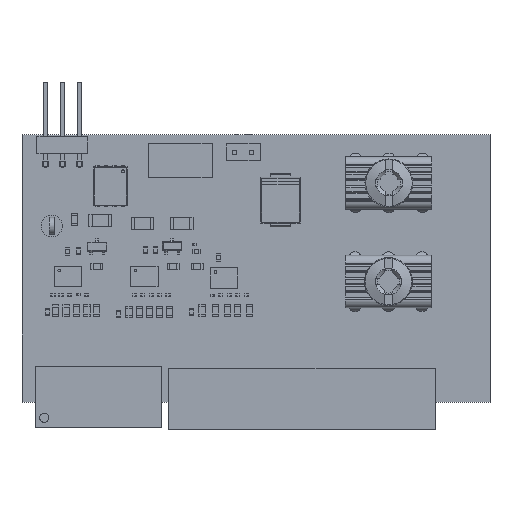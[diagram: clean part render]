
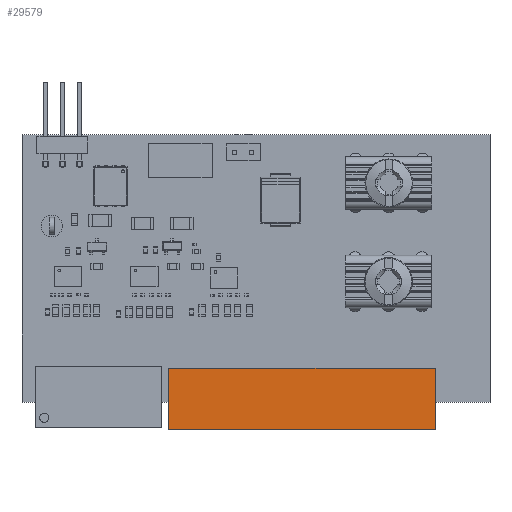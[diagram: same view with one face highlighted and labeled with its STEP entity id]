
A CAD part, top view. The second image highlights one B-rep face of the part: STEP entity #29579.
In plain terms, the highlighted planar face has unit normal (0, 0, 1) as drawn and (0, 1, 0) by its records, which use the part's own axes.
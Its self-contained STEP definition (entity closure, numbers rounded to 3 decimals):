
#24768 = PLANE('',#24769);
#24769 = AXIS2_PLACEMENT_3D('',#24770,#24771,#24772);
#24770 = CARTESIAN_POINT('',(0.,0.,0.));
#24771 = DIRECTION('',(0.,0.,1.));
#24772 = DIRECTION('',(1.,0.,0.));
#24793 = VERTEX_POINT('',#24794);
#24794 = CARTESIAN_POINT('',(19.952,6.858,0.));
#24808 = PLANE('',#24809);
#24809 = AXIS2_PLACEMENT_3D('',#24810,#24811,#24812);
#24810 = CARTESIAN_POINT('',(19.952,0.,0.));
#24811 = DIRECTION('',(1.,0.,0.));
#24812 = DIRECTION('',(0.,0.,1.));
#24820 = EDGE_CURVE('',#24793,#24821,#24823,.T.);
#24821 = VERTEX_POINT('',#24822);
#24822 = CARTESIAN_POINT('',(-19.952,6.858,0.));
#24823 = SURFACE_CURVE('',#24824,(#24828,#24835),.PCURVE_S1.);
#24824 = LINE('',#24825,#24826);
#24825 = CARTESIAN_POINT('',(19.952,6.858,0.));
#24826 = VECTOR('',#24827,1.);
#24827 = DIRECTION('',(-1.,0.,0.));
#24828 = PCURVE('',#24768,#24829);
#24829 = DEFINITIONAL_REPRESENTATION('',(#24830),#24834);
#24830 = LINE('',#24831,#24832);
#24831 = CARTESIAN_POINT('',(19.952,6.858));
#24832 = VECTOR('',#24833,1.);
#24833 = DIRECTION('',(-1.,0.));
#24834 = ( GEOMETRIC_REPRESENTATION_CONTEXT(2) 
PARAMETRIC_REPRESENTATION_CONTEXT() REPRESENTATION_CONTEXT('2D SPACE',''
  ) );
#24835 = PCURVE('',#24836,#24841);
#24836 = PLANE('',#24837);
#24837 = AXIS2_PLACEMENT_3D('',#24838,#24839,#24840);
#24838 = CARTESIAN_POINT('',(19.952,6.858,0.));
#24839 = DIRECTION('',(0.,1.,0.));
#24840 = DIRECTION('',(0.,0.,1.));
#24841 = DEFINITIONAL_REPRESENTATION('',(#24842),#24846);
#24842 = LINE('',#24843,#24844);
#24843 = CARTESIAN_POINT('',(0.,0.));
#24844 = VECTOR('',#24845,1.);
#24845 = DIRECTION('',(0.,-1.));
#24846 = ( GEOMETRIC_REPRESENTATION_CONTEXT(2) 
PARAMETRIC_REPRESENTATION_CONTEXT() REPRESENTATION_CONTEXT('2D SPACE',''
  ) );
#24862 = PLANE('',#24863);
#24863 = AXIS2_PLACEMENT_3D('',#24864,#24865,#24866);
#24864 = CARTESIAN_POINT('',(-19.952,6.858,0.));
#24865 = DIRECTION('',(-1.,0.,0.));
#24866 = DIRECTION('',(0.,0.,-1.));
#29409 = EDGE_CURVE('',#24821,#29410,#29412,.T.);
#29410 = VERTEX_POINT('',#29411);
#29411 = CARTESIAN_POINT('',(-19.952,6.858,-9.144));
#29412 = SURFACE_CURVE('',#29413,(#29417,#29424),.PCURVE_S1.);
#29413 = LINE('',#29414,#29415);
#29414 = CARTESIAN_POINT('',(-19.952,6.858,0.));
#29415 = VECTOR('',#29416,1.);
#29416 = DIRECTION('',(0.,0.,-1.));
#29417 = PCURVE('',#24862,#29418);
#29418 = DEFINITIONAL_REPRESENTATION('',(#29419),#29423);
#29419 = LINE('',#29420,#29421);
#29420 = CARTESIAN_POINT('',(0.,0.));
#29421 = VECTOR('',#29422,1.);
#29422 = DIRECTION('',(1.,0.));
#29423 = ( GEOMETRIC_REPRESENTATION_CONTEXT(2) 
PARAMETRIC_REPRESENTATION_CONTEXT() REPRESENTATION_CONTEXT('2D SPACE',''
  ) );
#29424 = PCURVE('',#24836,#29425);
#29425 = DEFINITIONAL_REPRESENTATION('',(#29426),#29430);
#29426 = LINE('',#29427,#29428);
#29427 = CARTESIAN_POINT('',(0.,-39.903));
#29428 = VECTOR('',#29429,1.);
#29429 = DIRECTION('',(-1.,0.));
#29430 = ( GEOMETRIC_REPRESENTATION_CONTEXT(2) 
PARAMETRIC_REPRESENTATION_CONTEXT() REPRESENTATION_CONTEXT('2D SPACE',''
  ) );
#29448 = PLANE('',#29449);
#29449 = AXIS2_PLACEMENT_3D('',#29450,#29451,#29452);
#29450 = CARTESIAN_POINT('',(0.,0.,-9.144));
#29451 = DIRECTION('',(0.,0.,1.));
#29452 = DIRECTION('',(1.,0.,0.));
#29536 = VERTEX_POINT('',#29537);
#29537 = CARTESIAN_POINT('',(19.952,6.858,-9.144));
#29558 = EDGE_CURVE('',#24793,#29536,#29559,.T.);
#29559 = SURFACE_CURVE('',#29560,(#29564,#29571),.PCURVE_S1.);
#29560 = LINE('',#29561,#29562);
#29561 = CARTESIAN_POINT('',(19.952,6.858,0.));
#29562 = VECTOR('',#29563,1.);
#29563 = DIRECTION('',(0.,0.,-1.));
#29564 = PCURVE('',#24808,#29565);
#29565 = DEFINITIONAL_REPRESENTATION('',(#29566),#29570);
#29566 = LINE('',#29567,#29568);
#29567 = CARTESIAN_POINT('',(0.,-6.858));
#29568 = VECTOR('',#29569,1.);
#29569 = DIRECTION('',(-1.,0.));
#29570 = ( GEOMETRIC_REPRESENTATION_CONTEXT(2) 
PARAMETRIC_REPRESENTATION_CONTEXT() REPRESENTATION_CONTEXT('2D SPACE',''
  ) );
#29571 = PCURVE('',#24836,#29572);
#29572 = DEFINITIONAL_REPRESENTATION('',(#29573),#29577);
#29573 = LINE('',#29574,#29575);
#29574 = CARTESIAN_POINT('',(0.,0.));
#29575 = VECTOR('',#29576,1.);
#29576 = DIRECTION('',(-1.,0.));
#29577 = ( GEOMETRIC_REPRESENTATION_CONTEXT(2) 
PARAMETRIC_REPRESENTATION_CONTEXT() REPRESENTATION_CONTEXT('2D SPACE',''
  ) );
#29579 = ADVANCED_FACE('',(#29580),#24836,.T.);
#29580 = FACE_BOUND('',#29581,.T.);
#29581 = EDGE_LOOP('',(#29582,#29583,#29604,#29605));
#29582 = ORIENTED_EDGE('',*,*,#29558,.T.);
#29583 = ORIENTED_EDGE('',*,*,#29584,.T.);
#29584 = EDGE_CURVE('',#29536,#29410,#29585,.T.);
#29585 = SURFACE_CURVE('',#29586,(#29590,#29597),.PCURVE_S1.);
#29586 = LINE('',#29587,#29588);
#29587 = CARTESIAN_POINT('',(19.952,6.858,-9.144));
#29588 = VECTOR('',#29589,1.);
#29589 = DIRECTION('',(-1.,0.,0.));
#29590 = PCURVE('',#24836,#29591);
#29591 = DEFINITIONAL_REPRESENTATION('',(#29592),#29596);
#29592 = LINE('',#29593,#29594);
#29593 = CARTESIAN_POINT('',(-9.144,0.));
#29594 = VECTOR('',#29595,1.);
#29595 = DIRECTION('',(0.,-1.));
#29596 = ( GEOMETRIC_REPRESENTATION_CONTEXT(2) 
PARAMETRIC_REPRESENTATION_CONTEXT() REPRESENTATION_CONTEXT('2D SPACE',''
  ) );
#29597 = PCURVE('',#29448,#29598);
#29598 = DEFINITIONAL_REPRESENTATION('',(#29599),#29603);
#29599 = LINE('',#29600,#29601);
#29600 = CARTESIAN_POINT('',(19.952,6.858));
#29601 = VECTOR('',#29602,1.);
#29602 = DIRECTION('',(-1.,0.));
#29603 = ( GEOMETRIC_REPRESENTATION_CONTEXT(2) 
PARAMETRIC_REPRESENTATION_CONTEXT() REPRESENTATION_CONTEXT('2D SPACE',''
  ) );
#29604 = ORIENTED_EDGE('',*,*,#29409,.F.);
#29605 = ORIENTED_EDGE('',*,*,#24820,.F.);
